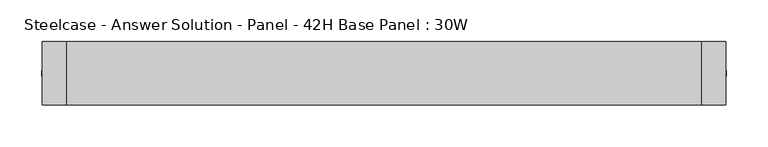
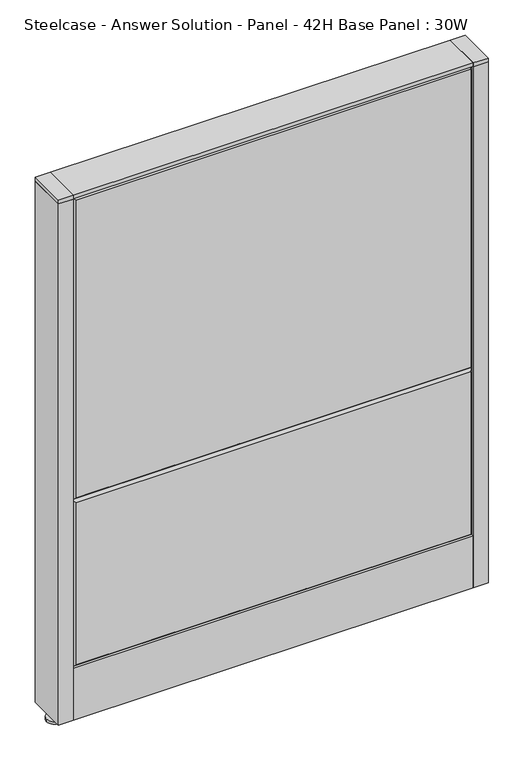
"""IFC4 building model written with IfcOpenShell, lengths in millimetres: furniture geometry, Steelcase - Answer Solution - Panel - 42H Base Panel : 30W."""

from ifc_helpers import new_model, si_unit, point, frame, frame_2d, origin, place, context, project, spatial, polyline, circle_curve, trimmed, segment, composite_curve, outline, extrude, faceted_brep, source, transform, mapped, element, save


def steelcase_answer_solution_panel_42h_base_panel_30w_bc92325c(model_context):
    return source(origin(), model_context, "Body", "SolidModel", [
        extrude(outline(composite_curve([segment(trimmed(circle_curve(frame_2d((395.224, 0.0039657)), 5.08), [point((400.304, 0.0039657))], [point((390.144, 0.0039657))], False, "CARTESIAN"), True, "CONTINUOUS"), segment(trimmed(circle_curve(frame_2d((395.224, 0.0039657)), 5.08), [point((390.144, 0.0039657))], [point((400.304, 0.0039657))], False, "CARTESIAN"), True, "CONTINUOUS")], self_intersect=False)), frame((0.0, 0.0, 5.0799671), z_axis=(0.0, 0.0, 1.0), x_axis=(1.0, 0.0, 0.0)), (0.0, 0.0, 1.0), 10.414),
        extrude(outline(composite_curve([segment(trimmed(circle_curve(frame_2d((395.224, 0.0039657)), 15.24), [point((410.464, 0.0039657))], [point((379.984, 0.0039657))], False, "CARTESIAN"), True, "CONTINUOUS"), segment(trimmed(circle_curve(frame_2d((395.224, 0.0039657)), 15.24), [point((379.984, 0.0039657))], [point((410.464, 0.0039657))], False, "CARTESIAN"), True, "CONTINUOUS")], self_intersect=False)), frame((0.0, 0.0, -3.29e-05), z_axis=(0.0, 0.0, 1.0), x_axis=(1.0, 0.0, 0.0)), (0.0, 0.0, 1.0), 5.08),
        extrude(outline(polyline([(409.575, 38.1039851), (409.575, -38.0960149), (381.0, -38.0960149), (381.0, 38.1039851), (409.575, 38.1039851)])), frame((0.0, 0.0, 1065.8348), z_axis=(0.0, 0.0, 1.0), x_axis=(1.0, 0.0, 0.0)), (0.0, 0.0, 1.0), 7.3151671),
        extrude(outline(polyline([(409.575, 38.1039851), (409.575, -38.0960149), (381.0, -38.0960149), (381.0, 38.1039851), (409.575, 38.1039851)])), frame((0.0, 0.0, 15.4939671), z_axis=(0.0, 0.0, 1.0), x_axis=(1.0, 0.0, 0.0)), (0.0, 0.0, 1.0), 1050.3408329),
        extrude(outline(composite_curve([segment(trimmed(circle_curve(frame_2d((-395.224, 0.0039657)), 5.08), [point((-400.304, 0.0039657))], [point((-390.144, 0.0039657))], False, "CARTESIAN"), True, "CONTINUOUS"), segment(trimmed(circle_curve(frame_2d((-395.224, 0.0039657)), 5.08), [point((-390.144, 0.0039657))], [point((-400.304, 0.0039657))], False, "CARTESIAN"), True, "CONTINUOUS")], self_intersect=False)), frame((0.0, 0.0, 5.0799671), z_axis=(0.0, 0.0, 1.0), x_axis=(1.0, 0.0, 0.0)), (0.0, 0.0, 1.0), 10.414),
        extrude(outline(composite_curve([segment(trimmed(circle_curve(frame_2d((-395.224, 0.0039657)), 15.24), [point((-410.464, 0.0039657))], [point((-379.984, 0.0039657))], False, "CARTESIAN"), True, "CONTINUOUS"), segment(trimmed(circle_curve(frame_2d((-395.224, 0.0039657)), 15.24), [point((-379.984, 0.0039657))], [point((-410.464, 0.0039657))], False, "CARTESIAN"), True, "CONTINUOUS")], self_intersect=False)), frame((0.0, 0.0, -3.29e-05), z_axis=(0.0, 0.0, 1.0), x_axis=(1.0, 0.0, 0.0)), (0.0, 0.0, 1.0), 5.08),
        extrude(outline(polyline([(-409.575, 38.1039851), (-381.0, 38.1039851), (-381.0, -38.0960149), (-409.575, -38.0960149), (-409.575, 38.1039851)])), frame((0.0, 0.0, 1065.8348), z_axis=(0.0, 0.0, 1.0), x_axis=(1.0, 0.0, 0.0)), (0.0, 0.0, 1.0), 7.3151671),
        extrude(outline(polyline([(-409.575, 38.1039851), (-381.0, 38.1039851), (-381.0, -38.0960149), (-409.575, -38.0960149), (-409.575, 38.1039851)])), frame((0.0, 0.0, 15.4939671), z_axis=(0.0, 0.0, 1.0), x_axis=(1.0, 0.0, 0.0)), (0.0, 0.0, 1.0), 1050.3408329),
        faceted_brep([(-376.174, 38.1635011, 1061.974), (376.174, 38.1635011, 1061.974), (376.174, 38.1635011, 462.026), (-376.174, 38.1635011, 462.026), (-381.0, 33.3375011, 1066.8), (-381.0, 33.3375011, 457.2), (381.0, 33.3375011, 457.2), (381.0, 33.3375011, 1066.8)], [[[0, 1, 2, 3]], [[4, 5, 6, 7]], [[4, 7, 1, 0]], [[7, 6, 2, 1]], [[6, 5, 3, 2]], [[5, 4, 0, 3]]]),
        faceted_brep([(-376.174, 38.1635011, 452.374), (376.174, 38.1635011, 452.374), (376.174, 38.1635011, 125.476), (-376.174, 38.1635011, 125.476), (-381.0, 33.3375011, 457.2), (-381.0, 33.3375011, 120.65), (381.0, 33.3375011, 120.65), (381.0, 33.3375011, 457.2)], [[[0, 1, 2, 3]], [[4, 5, 6, 7]], [[4, 7, 1, 0]], [[7, 6, 2, 1]], [[6, 5, 3, 2]], [[5, 4, 0, 3]]]),
        faceted_brep([(376.174, -38.1635011, 1061.974), (-376.174, -38.1635011, 1061.974), (-376.174, -38.1635011, 462.026), (376.174, -38.1635011, 462.026), (381.0, -33.3375011, 1066.8), (381.0, -33.3375011, 457.2), (-381.0, -33.3375011, 457.2), (-381.0, -33.3375011, 1066.8)], [[[0, 1, 2, 3]], [[4, 5, 6, 7]], [[4, 7, 1, 0]], [[7, 6, 2, 1]], [[6, 5, 3, 2]], [[5, 4, 0, 3]]]),
        faceted_brep([(376.174, -38.1635011, 452.374), (-376.174, -38.1635011, 452.374), (-376.174, -38.1635011, 125.476), (376.174, -38.1635011, 125.476), (381.0, -33.3375011, 457.2), (381.0, -33.3375011, 120.65), (-381.0, -33.3375011, 120.65), (-381.0, -33.3375011, 457.2)], [[[0, 1, 2, 3]], [[4, 5, 6, 7]], [[4, 7, 1, 0]], [[7, 6, 2, 1]], [[6, 5, 3, 2]], [[5, 4, 0, 3]]]),
        extrude(outline(polyline([(381.0, 38.1000194), (381.0, -38.1000194), (-381.0, -38.1000194), (-381.0, 38.1000194), (381.0, 38.1000194)])), frame((0.0, 0.0, 1066.8), z_axis=(0.0, 0.0, 1.0), x_axis=(1.0, 0.0, 0.0)), (0.0, 0.0, 1.0), 6.35),
        extrude(outline(polyline([(25.4000011, 119.8575157), (25.4000011, 120.65), (38.1000194, 120.65), (38.1000194, 15.494), (37.3075215, 15.494), (37.3075215, 119.8575157), (25.4000011, 119.8575157)])), frame((-381.0, 0.0, 0.0), z_axis=(1.0, 0.0, 0.0), x_axis=(0.0, 1.0, 0.0)), (0.0, 0.0, 1.0), 762.0),
        extrude(outline(polyline([(-25.4000011, 119.8575157), (-37.3075215, 119.8575157), (-37.3075215, 15.494), (-38.1000194, 15.494), (-38.1000194, 120.65), (-25.4000011, 120.65), (-25.4000011, 119.8575157)])), frame((-381.0, 0.0, 0.0), z_axis=(1.0, 0.0, 0.0), x_axis=(0.0, 1.0, 0.0)), (0.0, 0.0, 1.0), 762.0),
    ])


if __name__ == "__main__":
    model = new_model("IFC4")
    model_context = context("Model", 3, world=origin())
    ifc_project = project(units=[si_unit("LENGTHUNIT", "METRE", prefix="MILLI")], contexts=[model_context])
    site = spatial("IfcSite", under=ifc_project)
    building = spatial("IfcBuilding", under=site)
    placement = place(None, origin())
    steelcase_answer_solution_panel_42h_base_panel_30w_shape = steelcase_answer_solution_panel_42h_base_panel_30w_bc92325c(model_context)
    element("IfcFurniture", 1, ObjectType="Steelcase - Answer Solution - Panel - 42H Base Panel : 30W", at=placement, inside=building, context=model_context, shape_type="MappedRepresentation", body=[
        mapped(steelcase_answer_solution_panel_42h_base_panel_30w_shape, transform((0.0, 0.0, 0.0), x_axis=(1.0, 0.0, 0.0), y_axis=(0.0, 1.0, 0.0), z_axis=(0.0, 0.0, 1.0))),
    ])
    save(model, "model.ifc")
